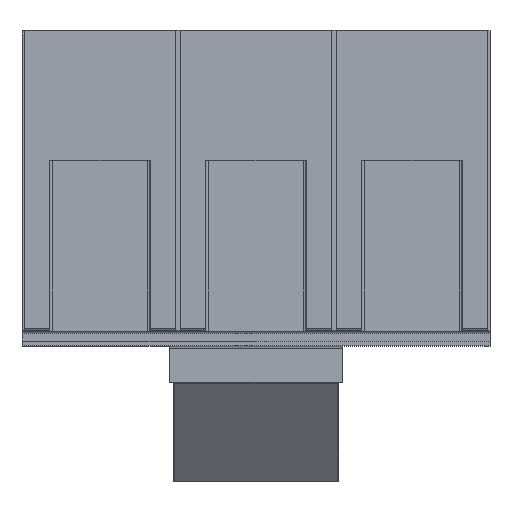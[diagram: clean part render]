
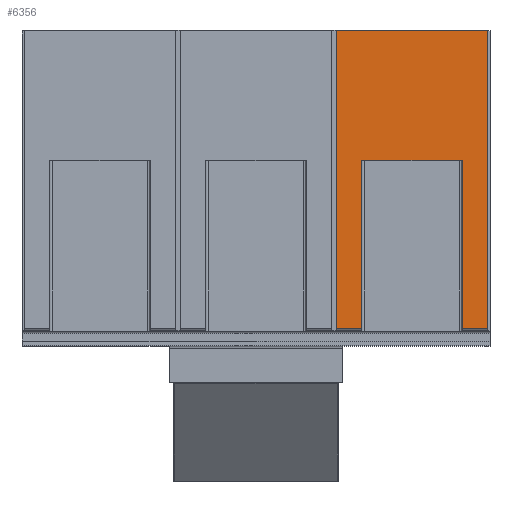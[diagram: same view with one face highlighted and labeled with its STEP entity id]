
A CAD part, top view. The second image highlights one B-rep face of the part: STEP entity #6356.
In plain terms, the highlighted planar face has unit normal (0, 0, 1).
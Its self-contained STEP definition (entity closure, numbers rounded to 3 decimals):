
#506=FACE_OUTER_BOUND('',#880,.T.);
#880=EDGE_LOOP('',(#4684,#4685,#4686,#4687,#4688,#4689,#4690,#4691));
#1453=LINE('',#9482,#2173);
#1462=LINE('',#9504,#2182);
#1463=LINE('',#9507,#2183);
#1464=LINE('',#9509,#2184);
#1465=LINE('',#9511,#2185);
#1466=LINE('',#9513,#2186);
#1467=LINE('',#9515,#2187);
#1468=LINE('',#9516,#2188);
#2173=VECTOR('',#7554,133.5);
#2182=VECTOR('',#7575,11.5);
#2183=VECTOR('',#7578,75.5);
#2184=VECTOR('',#7579,45.);
#2185=VECTOR('',#7580,75.5);
#2186=VECTOR('',#7581,11.5);
#2187=VECTOR('',#7582,133.5);
#2188=VECTOR('',#7583,68.);
#2926=VERTEX_POINT('',#9480);
#2927=VERTEX_POINT('',#9481);
#2934=VERTEX_POINT('',#9502);
#2935=VERTEX_POINT('',#9506);
#2936=VERTEX_POINT('',#9508);
#2937=VERTEX_POINT('',#9510);
#2938=VERTEX_POINT('',#9512);
#2939=VERTEX_POINT('',#9514);
#3608=EDGE_CURVE('',#2926,#2927,#1453,.T.);
#3620=EDGE_CURVE('',#2934,#2927,#1462,.T.);
#3621=EDGE_CURVE('',#2934,#2935,#1463,.T.);
#3622=EDGE_CURVE('',#2935,#2936,#1464,.T.);
#3623=EDGE_CURVE('',#2936,#2937,#1465,.T.);
#3624=EDGE_CURVE('',#2938,#2937,#1466,.T.);
#3625=EDGE_CURVE('',#2938,#2939,#1467,.T.);
#3626=EDGE_CURVE('',#2926,#2939,#1468,.T.);
#4684=ORIENTED_EDGE('',*,*,#3608,.T.);
#4685=ORIENTED_EDGE('',*,*,#3620,.F.);
#4686=ORIENTED_EDGE('',*,*,#3621,.T.);
#4687=ORIENTED_EDGE('',*,*,#3622,.T.);
#4688=ORIENTED_EDGE('',*,*,#3623,.T.);
#4689=ORIENTED_EDGE('',*,*,#3624,.F.);
#4690=ORIENTED_EDGE('',*,*,#3625,.T.);
#4691=ORIENTED_EDGE('',*,*,#3626,.F.);
#6089=PLANE('',#6757);
#6356=ADVANCED_FACE('',(#506),#6089,.T.);
#6757=AXIS2_PLACEMENT_3D('',#9505,#7576,#7577);
#7554=DIRECTION('',(0.,-1.,0.));
#7575=DIRECTION('',(-1.,0.,0.));
#7576=DIRECTION('center_axis',(0.,0.,1.));
#7577=DIRECTION('ref_axis',(0.,-1.,0.));
#7578=DIRECTION('',(0.,1.,0.));
#7579=DIRECTION('',(1.,0.,0.));
#7580=DIRECTION('',(0.,-1.,0.));
#7581=DIRECTION('',(-1.,0.,0.));
#7582=DIRECTION('',(0.,1.,0.));
#7583=DIRECTION('',(1.,0.,0.));
#9480=CARTESIAN_POINT('',(141.,228.728,340.368));
#9481=CARTESIAN_POINT('',(141.,95.228,340.368));
#9482=CARTESIAN_POINT('',(141.,161.478,340.368));
#9502=CARTESIAN_POINT('',(152.5,95.228,340.368));
#9504=CARTESIAN_POINT('',(0.,95.228,340.368));
#9505=CARTESIAN_POINT('Origin',(0.,228.728,340.368));
#9506=CARTESIAN_POINT('',(152.5,170.728,340.368));
#9507=CARTESIAN_POINT('',(152.5,161.478,340.368));
#9508=CARTESIAN_POINT('',(197.5,170.728,340.368));
#9509=CARTESIAN_POINT('',(87.5,170.728,340.368));
#9510=CARTESIAN_POINT('',(197.5,95.228,340.368));
#9511=CARTESIAN_POINT('',(197.5,161.478,340.368));
#9512=CARTESIAN_POINT('',(209.,95.228,340.368));
#9513=CARTESIAN_POINT('',(0.,95.228,340.368));
#9514=CARTESIAN_POINT('',(209.,228.728,340.368));
#9515=CARTESIAN_POINT('',(209.,228.728,340.368));
#9516=CARTESIAN_POINT('',(0.,228.728,340.368));
